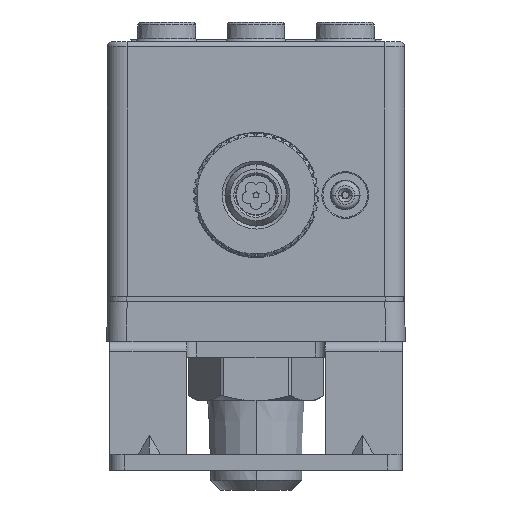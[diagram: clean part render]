
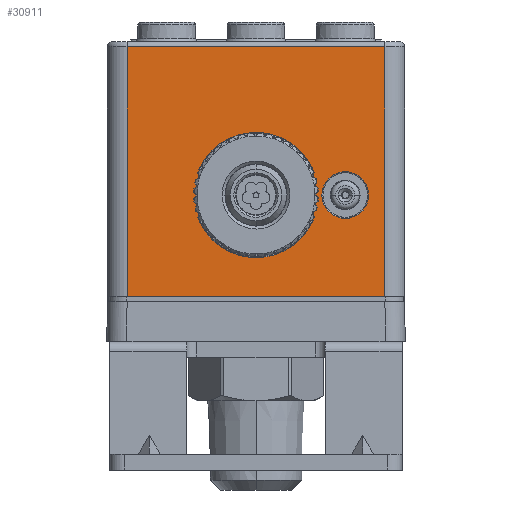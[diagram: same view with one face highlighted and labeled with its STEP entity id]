
A CAD part, front view. The second image highlights one B-rep face of the part: STEP entity #30911.
In plain terms, the highlighted planar face has unit normal (0, -1, 0).
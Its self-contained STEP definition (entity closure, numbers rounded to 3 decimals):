
#3310=DIRECTION('',(1.,0.,0.));
#3311=VECTOR('',#3310,26.);
#3312=CARTESIAN_POINT('',(-13.,-15.,4.5));
#3313=LINE('',#3312,#3311);
#3314=DIRECTION('',(0.,0.,-1.));
#3315=VECTOR('',#3314,25.2);
#3316=CARTESIAN_POINT('',(-13.,-15.,29.7));
#3317=LINE('',#3316,#3315);
#3318=DIRECTION('',(1.,0.,0.));
#3319=VECTOR('',#3318,26.);
#3320=CARTESIAN_POINT('',(-13.,-15.,29.7));
#3321=LINE('',#3320,#3319);
#3322=DIRECTION('',(0.,0.,-1.));
#3323=VECTOR('',#3322,25.2);
#3324=CARTESIAN_POINT('',(13.,-15.,29.7));
#3325=LINE('',#3324,#3323);
#3326=CARTESIAN_POINT('',(0.,-15.,14.75));
#3327=DIRECTION('',(0.,-1.,0.));
#3328=DIRECTION('',(-0.898,0.,-0.44));
#3329=AXIS2_PLACEMENT_3D('',#3326,#3327,#3328);
#3331=DIRECTION('',(-0.017,0.,-1.));
#3332=VECTOR('',#3331,2.35);
#3333=CARTESIAN_POINT('',(5.8,-15.,14.75));
#3334=LINE('',#3333,#3332);
#3335=DIRECTION('',(0.017,0.,-1.));
#3336=VECTOR('',#3335,2.35);
#3337=CARTESIAN_POINT('',(5.759,-15.,17.1));
#3338=LINE('',#3337,#3336);
#3339=CARTESIAN_POINT('',(0.,-15.,14.75));
#3340=DIRECTION('',(0.,-1.,0.));
#3341=DIRECTION('',(0.898,0.,0.44));
#3342=AXIS2_PLACEMENT_3D('',#3339,#3340,#3341);
#3344=DIRECTION('',(0.017,0.,1.));
#3345=VECTOR('',#3344,2.35);
#3346=CARTESIAN_POINT('',(-5.8,-15.,14.75));
#3347=LINE('',#3346,#3345);
#3348=DIRECTION('',(-0.017,0.,1.));
#3349=VECTOR('',#3348,2.35);
#3350=CARTESIAN_POINT('',(-5.759,-15.,12.4));
#3351=LINE('',#3350,#3349);
#3352=CARTESIAN_POINT('',(9.,-15.,14.75));
#3353=DIRECTION('',(0.,1.,0.));
#3354=DIRECTION('',(-1.,0.,0.));
#3355=AXIS2_PLACEMENT_3D('',#3352,#3353,#3354);
#3357=CARTESIAN_POINT('',(9.,-15.,14.75));
#3358=DIRECTION('',(0.,1.,0.));
#3359=DIRECTION('',(1.,0.,0.));
#3360=AXIS2_PLACEMENT_3D('',#3357,#3358,#3359);
#9444=CARTESIAN_POINT('',(-4.759,-15.,17.083));
#9445=DIRECTION('',(0.,1.,0.));
#9446=DIRECTION('',(-1.,0.,0.017));
#9447=AXIS2_PLACEMENT_3D('',#9444,#9445,#9446);
#9890=CARTESIAN_POINT('',(4.759,-15.,17.083));
#9891=DIRECTION('',(0.,1.,0.));
#9892=DIRECTION('',(0.898,0.,0.44));
#9893=AXIS2_PLACEMENT_3D('',#9890,#9891,#9892);
#9946=CARTESIAN_POINT('',(4.759,-15.,12.417));
#9947=DIRECTION('',(0.,1.,0.));
#9948=DIRECTION('',(1.,0.,-0.017));
#9949=AXIS2_PLACEMENT_3D('',#9946,#9947,#9948);
#10020=CARTESIAN_POINT('',(-4.759,-15.,12.417));
#10021=DIRECTION('',(0.,1.,0.));
#10022=DIRECTION('',(-0.898,0.,-0.44));
#10023=AXIS2_PLACEMENT_3D('',#10020,#10021,#10022);
#24180=CARTESIAN_POINT('',(-13.,-15.,4.5));
#24181=CARTESIAN_POINT('',(13.,-15.,4.5));
#24182=VERTEX_POINT('',#24180);
#24183=VERTEX_POINT('',#24181);
#24204=CARTESIAN_POINT('',(13.,-15.,29.7));
#24205=VERTEX_POINT('',#24204);
#24210=CARTESIAN_POINT('',(-13.,-15.,29.7));
#24211=VERTEX_POINT('',#24210);
#24312=CARTESIAN_POINT('',(6.646,-15.,14.75));
#24313=CARTESIAN_POINT('',(11.354,-15.,14.75));
#24314=VERTEX_POINT('',#24312);
#24315=VERTEX_POINT('',#24313);
#24506=CARTESIAN_POINT('',(5.8,-15.,14.75));
#24507=VERTEX_POINT('',#24506);
#24517=CARTESIAN_POINT('',(5.759,-15.,17.1));
#24518=VERTEX_POINT('',#24517);
#24519=CARTESIAN_POINT('',(5.759,-15.,12.4));
#24520=VERTEX_POINT('',#24519);
#24521=CARTESIAN_POINT('',(5.657,-15.,17.523));
#24522=VERTEX_POINT('',#24521);
#24523=CARTESIAN_POINT('',(5.657,-15.,11.977));
#24524=VERTEX_POINT('',#24523);
#24532=CARTESIAN_POINT('',(-5.657,-15.,17.523));
#24533=VERTEX_POINT('',#24532);
#24534=CARTESIAN_POINT('',(-5.657,-15.,11.977));
#24535=VERTEX_POINT('',#24534);
#24546=CARTESIAN_POINT('',(-5.759,-15.,12.4));
#24547=CARTESIAN_POINT('',(-5.8,-15.,14.75));
#24548=VERTEX_POINT('',#24546);
#24549=VERTEX_POINT('',#24547);
#24550=CARTESIAN_POINT('',(-5.759,-15.,17.1));
#24551=VERTEX_POINT('',#24550);
#30870=CARTESIAN_POINT('',(-15.,-15.,2.9));
#30871=DIRECTION('',(0.,-1.,0.));
#30872=DIRECTION('',(1.,0.,0.));
#30873=AXIS2_PLACEMENT_3D('',#30870,#30871,#30872);
#30874=PLANE('',#30873);
#30875=ORIENTED_EDGE('',*,*,#29563,.F.);
#30877=ORIENTED_EDGE('',*,*,#30876,.F.);
#30879=ORIENTED_EDGE('',*,*,#30878,.T.);
#30880=ORIENTED_EDGE('',*,*,#30862,.T.);
#30881=EDGE_LOOP('',(#30875,#30877,#30879,#30880));
#30882=FACE_OUTER_BOUND('',#30881,.F.);
#30884=ORIENTED_EDGE('',*,*,#30883,.T.);
#30886=ORIENTED_EDGE('',*,*,#30885,.F.);
#30888=ORIENTED_EDGE('',*,*,#30887,.F.);
#30890=ORIENTED_EDGE('',*,*,#30889,.F.);
#30892=ORIENTED_EDGE('',*,*,#30891,.F.);
#30894=ORIENTED_EDGE('',*,*,#30893,.T.);
#30896=ORIENTED_EDGE('',*,*,#30895,.F.);
#30898=ORIENTED_EDGE('',*,*,#30897,.F.);
#30900=ORIENTED_EDGE('',*,*,#30899,.F.);
#30902=ORIENTED_EDGE('',*,*,#30901,.F.);
#30903=EDGE_LOOP('',(#30884,#30886,#30888,#30890,#30892,#30894,#30896,#30898,
#30900,#30902));
#30904=FACE_BOUND('',#30903,.F.);
#30906=ORIENTED_EDGE('',*,*,#30905,.F.);
#30908=ORIENTED_EDGE('',*,*,#30907,.F.);
#30909=EDGE_LOOP('',(#30906,#30908));
#30910=FACE_BOUND('',#30909,.F.);
#30911=ADVANCED_FACE('',(#30882,#30904,#30910),#30874,.T.);
#3330=CIRCLE('',#3329,6.3);
#3343=CIRCLE('',#3342,6.3);
#3356=CIRCLE('',#3355,2.354);
#3361=CIRCLE('',#3360,2.354);
#9448=CIRCLE('',#9447,1.);
#9894=CIRCLE('',#9893,1.);
#9950=CIRCLE('',#9949,1.);
#10024=CIRCLE('',#10023,1.);
#29563=EDGE_CURVE('',#24182,#24183,#3313,.T.);
#30862=EDGE_CURVE('',#24205,#24183,#3325,.T.);
#30876=EDGE_CURVE('',#24211,#24182,#3317,.T.);
#30878=EDGE_CURVE('',#24211,#24205,#3321,.T.);
#30883=EDGE_CURVE('',#24535,#24524,#3330,.T.);
#30885=EDGE_CURVE('',#24520,#24524,#9950,.T.);
#30887=EDGE_CURVE('',#24507,#24520,#3334,.T.);
#30889=EDGE_CURVE('',#24518,#24507,#3338,.T.);
#30891=EDGE_CURVE('',#24522,#24518,#9894,.T.);
#30893=EDGE_CURVE('',#24522,#24533,#3343,.T.);
#30895=EDGE_CURVE('',#24551,#24533,#9448,.T.);
#30897=EDGE_CURVE('',#24549,#24551,#3347,.T.);
#30899=EDGE_CURVE('',#24548,#24549,#3351,.T.);
#30901=EDGE_CURVE('',#24535,#24548,#10024,.T.);
#30905=EDGE_CURVE('',#24314,#24315,#3356,.T.);
#30907=EDGE_CURVE('',#24315,#24314,#3361,.T.);
